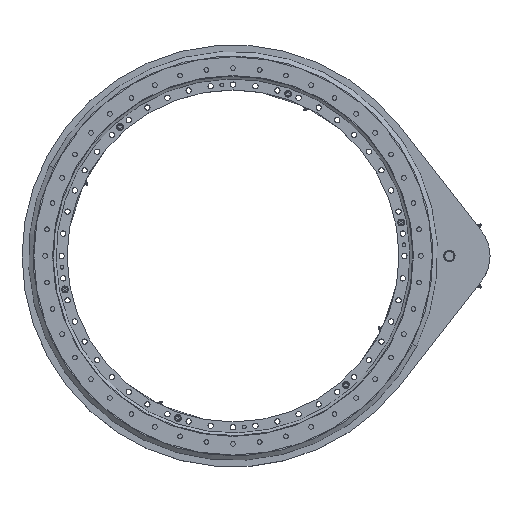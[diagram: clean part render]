
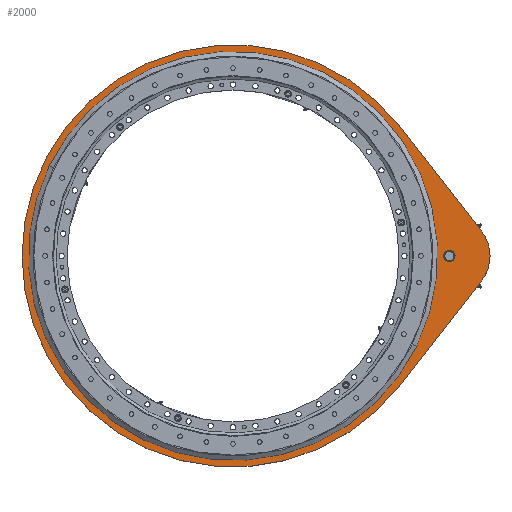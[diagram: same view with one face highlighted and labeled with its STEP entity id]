
A CAD part, top view. The second image highlights one B-rep face of the part: STEP entity #2000.
In plain terms, the highlighted planar face has unit normal (0, 0, 1).
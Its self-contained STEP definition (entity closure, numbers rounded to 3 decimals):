
#974 = ORIENTED_EDGE ( 'NONE', *, *, #25901, .T. ) ;
#1090 = CARTESIAN_POINT ( 'NONE',  ( 503.019, 23.74, 637. ) ) ;
#1230 = DIRECTION ( 'NONE',  ( 1., 0., 0. ) ) ;
#1519 = EDGE_CURVE ( 'NONE', #7974, #11365, #22325, .T. ) ;
#2000 = ADVANCED_FACE ( 'NONE', ( #27923, #15630, #25465 ), #25162, .T. ) ;
#2104 = DIRECTION ( 'NONE',  ( 0., 0., -1. ) ) ;
#2224 = DIRECTION ( 'NONE',  ( 1., 0., 0. ) ) ;
#2314 = DIRECTION ( 'NONE',  ( 0., 0., 1. ) ) ;
#2501 = CARTESIAN_POINT ( 'NONE',  ( 516.019, 23.74, 637. ) ) ;
#2708 = DIRECTION ( 'NONE',  ( 0., 0., 1. ) ) ;
#2830 = VERTEX_POINT ( 'NONE', #21312 ) ;
#3417 = CIRCLE ( 'NONE', #21549, 553. ) ;
#3676 = CARTESIAN_POINT ( 'NONE',  ( 586.886, -41.901, 637. ) ) ;
#4308 = CARTESIAN_POINT ( 'NONE',  ( 371.495, -317.098, 637. ) ) ;
#4625 = EDGE_CURVE ( 'NONE', #22412, #20053, #22457, .T. ) ;
#5452 = CIRCLE ( 'NONE', #27187, 531. ) ;
#6008 = VERTEX_POINT ( 'NONE', #3676 ) ;
#6564 = AXIS2_PLACEMENT_3D ( 'NONE', #1090, #30557, #16348 ) ;
#6685 = CARTESIAN_POINT ( 'NONE',  ( -63.981, 23.74, 637. ) ) ;
#7190 = CARTESIAN_POINT ( 'NONE',  ( -63.981, 23.74, 637. ) ) ;
#7414 = CARTESIAN_POINT ( 'NONE',  ( -63.981, 23.74, 637. ) ) ;
#7565 = CIRCLE ( 'NONE', #19998, 13. ) ;
#7712 = ORIENTED_EDGE ( 'NONE', *, *, #20734, .T. ) ;
#7974 = VERTEX_POINT ( 'NONE', #22112 ) ;
#8343 = VERTEX_POINT ( 'NONE', #4308 ) ;
#8541 = LINE ( 'NONE', #28287, #24972 ) ;
#8986 = AXIS2_PLACEMENT_3D ( 'NONE', #31160, #23306, #1230 ) ;
#9275 = DIRECTION ( 'NONE',  ( -1., 0., 0. ) ) ;
#9286 = ORIENTED_EDGE ( 'NONE', *, *, #25763, .T. ) ;
#9710 = DIRECTION ( 'NONE',  ( -0.616, 0.787, 0. ) ) ;
#9717 = CIRCLE ( 'NONE', #28303, 13. ) ;
#11069 = CARTESIAN_POINT ( 'NONE',  ( -616.981, 23.74, 637. ) ) ;
#11365 = VERTEX_POINT ( 'NONE', #21671 ) ;
#11750 = DIRECTION ( 'NONE',  ( 1., 0., 0. ) ) ;
#12025 = CARTESIAN_POINT ( 'NONE',  ( 503.019, 23.74, 637. ) ) ;
#12214 = EDGE_CURVE ( 'NONE', #11365, #17051, #3417, .T. ) ;
#13300 = CARTESIAN_POINT ( 'NONE',  ( -594.981, 23.74, 637. ) ) ;
#14415 = ORIENTED_EDGE ( 'NONE', *, *, #4625, .F. ) ;
#15630 = FACE_OUTER_BOUND ( 'NONE', #31951, .T. ) ;
#15963 = DIRECTION ( 'NONE',  ( 0., 0., 1. ) ) ;
#16193 = CIRCLE ( 'NONE', #29598, 553. ) ;
#16348 = DIRECTION ( 'NONE',  ( 1., 0., 0. ) ) ;
#16532 = EDGE_CURVE ( 'NONE', #8343, #6008, #8541, .T. ) ;
#16893 = VERTEX_POINT ( 'NONE', #2501 ) ;
#16985 = VECTOR ( 'NONE', #9710, 1000. ) ;
#17051 = VERTEX_POINT ( 'NONE', #11069 ) ;
#17568 = ORIENTED_EDGE ( 'NONE', *, *, #29843, .F. ) ;
#17709 = ORIENTED_EDGE ( 'NONE', *, *, #12214, .T. ) ;
#19998 = AXIS2_PLACEMENT_3D ( 'NONE', #12025, #2104, #9275 ) ;
#20020 = CARTESIAN_POINT ( 'NONE',  ( 467.019, 23.74, 637. ) ) ;
#20053 = VERTEX_POINT ( 'NONE', #20020 ) ;
#20734 = EDGE_CURVE ( 'NONE', #17051, #8343, #16193, .T. ) ;
#21312 = CARTESIAN_POINT ( 'NONE',  ( 490.019, 23.74, 637. ) ) ;
#21524 = CARTESIAN_POINT ( 'NONE',  ( 503.019, 23.74, 637. ) ) ;
#21549 = AXIS2_PLACEMENT_3D ( 'NONE', #7190, #2314, #26429 ) ;
#21671 = CARTESIAN_POINT ( 'NONE',  ( 371.495, 364.578, 637. ) ) ;
#21836 = DIRECTION ( 'NONE',  ( 0., 0., 1. ) ) ;
#21838 = DIRECTION ( 'NONE',  ( -1., 0., 0. ) ) ;
#22112 = CARTESIAN_POINT ( 'NONE',  ( 586.886, 89.38, 637. ) ) ;
#22325 = LINE ( 'NONE', #31845, #16985 ) ;
#22412 = VERTEX_POINT ( 'NONE', #13300 ) ;
#22457 = CIRCLE ( 'NONE', #8986, 531. ) ;
#22891 = ORIENTED_EDGE ( 'NONE', *, *, #16532, .T. ) ;
#23232 = ORIENTED_EDGE ( 'NONE', *, *, #30260, .T. ) ;
#23306 = DIRECTION ( 'NONE',  ( 0., 0., 1. ) ) ;
#23916 = DIRECTION ( 'NONE',  ( 0., 0., -1. ) ) ;
#24972 = VECTOR ( 'NONE', #31346, 1000. ) ;
#25162 = PLANE ( 'NONE',  #26878 ) ;
#25382 = EDGE_LOOP ( 'NONE', ( #17568, #14415 ) ) ;
#25465 = FACE_BOUND ( 'NONE', #25382, .T. ) ;
#25763 = EDGE_CURVE ( 'NONE', #6008, #7974, #28803, .T. ) ;
#25901 = EDGE_CURVE ( 'NONE', #2830, #16893, #9717, .T. ) ;
#26429 = DIRECTION ( 'NONE',  ( 1., 0., 0. ) ) ;
#26878 = AXIS2_PLACEMENT_3D ( 'NONE', #6685, #15963, #11750 ) ;
#27187 = AXIS2_PLACEMENT_3D ( 'NONE', #7414, #2708, #27480 ) ;
#27291 = EDGE_LOOP ( 'NONE', ( #974, #23232 ) ) ;
#27480 = DIRECTION ( 'NONE',  ( 1., 0., 0. ) ) ;
#27923 = FACE_BOUND ( 'NONE', #27291, .T. ) ;
#28287 = CARTESIAN_POINT ( 'NONE',  ( 371.495, -317.098, 637. ) ) ;
#28303 = AXIS2_PLACEMENT_3D ( 'NONE', #21524, #23916, #21838 ) ;
#28803 = CIRCLE ( 'NONE', #6564, 106.5 ) ;
#29429 = CARTESIAN_POINT ( 'NONE',  ( -63.981, 23.74, 637. ) ) ;
#29598 = AXIS2_PLACEMENT_3D ( 'NONE', #29429, #21836, #2224 ) ;
#29843 = EDGE_CURVE ( 'NONE', #20053, #22412, #5452, .T. ) ;
#30260 = EDGE_CURVE ( 'NONE', #16893, #2830, #7565, .T. ) ;
#30557 = DIRECTION ( 'NONE',  ( 0., 0., 1. ) ) ;
#31160 = CARTESIAN_POINT ( 'NONE',  ( -63.981, 23.74, 637. ) ) ;
#31346 = DIRECTION ( 'NONE',  ( 0.616, 0.787, 0. ) ) ;
#31473 = ORIENTED_EDGE ( 'NONE', *, *, #1519, .T. ) ;
#31845 = CARTESIAN_POINT ( 'NONE',  ( 371.495, 364.578, 637. ) ) ;
#31951 = EDGE_LOOP ( 'NONE', ( #17709, #7712, #22891, #9286, #31473 ) ) ;
